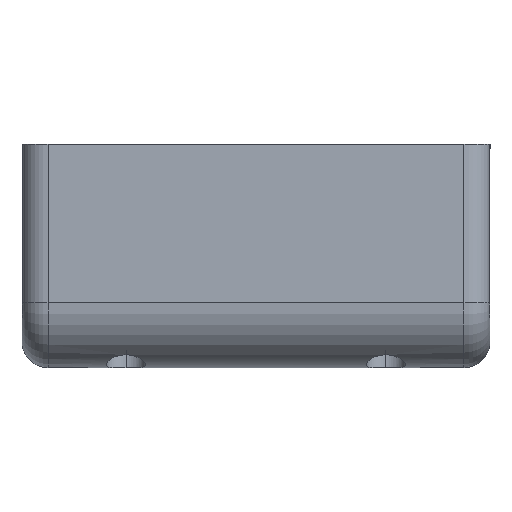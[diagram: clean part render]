
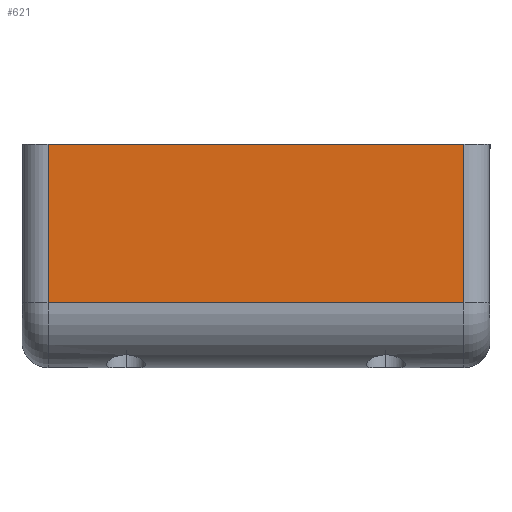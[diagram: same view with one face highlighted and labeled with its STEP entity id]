
A CAD part, left-side view. The second image highlights one B-rep face of the part: STEP entity #621.
In plain terms, the highlighted planar face has unit normal (-1, 0, 0).
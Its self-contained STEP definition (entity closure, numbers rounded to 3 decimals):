
#2 = CARTESIAN_POINT ( 'NONE',  ( -23.1, 34., -12.6 ) ) ;
#57 = AXIS2_PLACEMENT_3D ( 'NONE', #1416, #1217, #536 ) ;
#65 = EDGE_CURVE ( 'NONE', #828, #881, #1010, .T. ) ;
#82 = DIRECTION ( 'NONE',  ( 0., 1., 0. ) ) ;
#85 = LINE ( 'NONE', #520, #1423 ) ;
#100 = FACE_OUTER_BOUND ( 'NONE', #938, .T. ) ;
#133 = DIRECTION ( 'NONE',  ( 0., 0., -1. ) ) ;
#184 = ORIENTED_EDGE ( 'NONE', *, *, #205, .T. ) ;
#205 = EDGE_CURVE ( 'NONE', #825, #541, #390, .T. ) ;
#282 = CARTESIAN_POINT ( 'NONE',  ( -23.1, 34., -0.4 ) ) ;
#344 = PLANE ( 'NONE',  #57 ) ;
#390 = LINE ( 'NONE', #616, #1417 ) ;
#424 = VECTOR ( 'NONE', #133, 1000. ) ;
#466 = DIRECTION ( 'NONE',  ( 0., -1., 0. ) ) ;
#492 = VECTOR ( 'NONE', #82, 1000. ) ;
#494 = CARTESIAN_POINT ( 'NONE',  ( -23.1, 2., -12.6 ) ) ;
#503 = ORIENTED_EDGE ( 'NONE', *, *, #1129, .T. ) ;
#511 = DIRECTION ( 'NONE',  ( 0., 0., 1. ) ) ;
#520 = CARTESIAN_POINT ( 'NONE',  ( -23.1, 36., -12.6 ) ) ;
#536 = DIRECTION ( 'NONE',  ( 0., 0., -1. ) ) ;
#541 = VERTEX_POINT ( 'NONE', #1062 ) ;
#616 = CARTESIAN_POINT ( 'NONE',  ( -23.1, 2., 12.6 ) ) ;
#621 = ADVANCED_FACE ( 'NONE', ( #100 ), #344, .F. ) ;
#717 = LINE ( 'NONE', #1257, #492 ) ;
#825 = VERTEX_POINT ( 'NONE', #494 ) ;
#828 = VERTEX_POINT ( 'NONE', #282 ) ;
#881 = VERTEX_POINT ( 'NONE', #2 ) ;
#938 = EDGE_LOOP ( 'NONE', ( #184, #503, #1289, #986 ) ) ;
#986 = ORIENTED_EDGE ( 'NONE', *, *, #1341, .T. ) ;
#1010 = LINE ( 'NONE', #1019, #424 ) ;
#1019 = CARTESIAN_POINT ( 'NONE',  ( -23.1, 34., -12.6 ) ) ;
#1062 = CARTESIAN_POINT ( 'NONE',  ( -23.1, 2., -0.4 ) ) ;
#1129 = EDGE_CURVE ( 'NONE', #541, #828, #717, .T. ) ;
#1217 = DIRECTION ( 'NONE',  ( 1., 0., 0. ) ) ;
#1257 = CARTESIAN_POINT ( 'NONE',  ( -23.1, 36., -0.4 ) ) ;
#1289 = ORIENTED_EDGE ( 'NONE', *, *, #65, .T. ) ;
#1341 = EDGE_CURVE ( 'NONE', #881, #825, #85, .T. ) ;
#1416 = CARTESIAN_POINT ( 'NONE',  ( -23.1, 36., -12.6 ) ) ;
#1417 = VECTOR ( 'NONE', #511, 1000. ) ;
#1423 = VECTOR ( 'NONE', #466, 1000. ) ;
